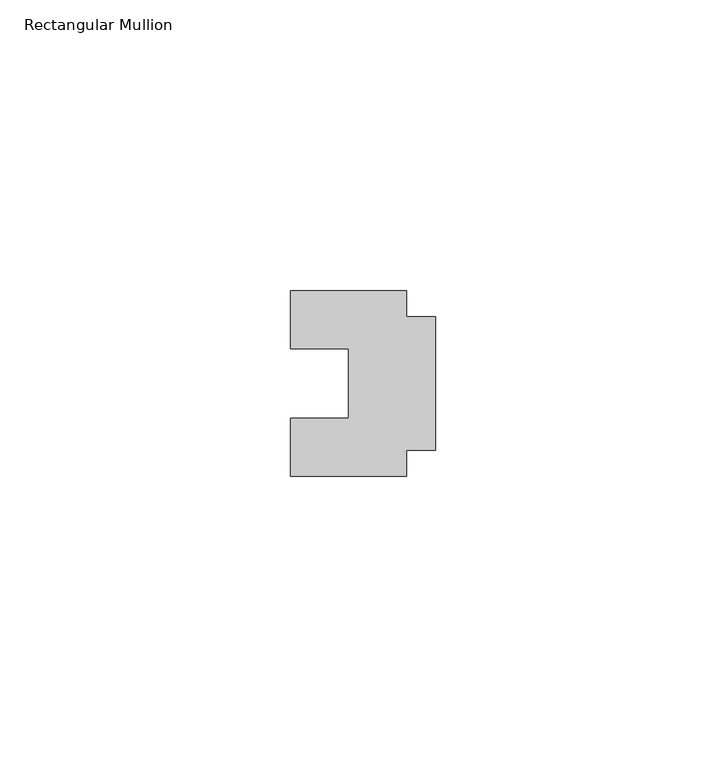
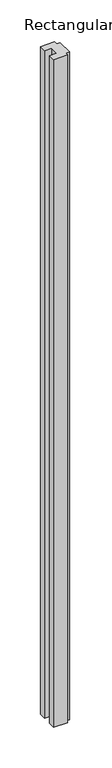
"""IFC4 building model written with IfcOpenShell, lengths in millimetres: member geometry, Rectangular Mullion : Klein_Nature_Profile-Bottom-Panel."""

from ifc_helpers import new_model, si_unit, frame, origin, place, context, project, spatial, polyline, outline, extrude, source, transform, mapped, element, save


def rectangular_mullion_76ee8039(model_context):
    return source(origin(), model_context, "Body", "SweptSolid", [
        extrude(outline(polyline([(-25.0, -4.3), (-5.0, -4.3), (-5.0, -8.8), (0.0, -8.8), (0.0, -31.8), (-5.0, -31.8), (-5.0, -36.3), (-25.0, -36.3), (-25.0, -26.3), (-15.0, -26.3), (-15.0, -14.3), (-25.0, -14.3), (-25.0, -4.3)])), frame((0.0, 0.0, -999.9999998), z_axis=(0.0, 0.0, 1.0), x_axis=(1.0, 0.0, 0.0)), (0.0, 0.0, 1.0), 999.9999998),
    ])


if __name__ == "__main__":
    model = new_model("IFC4")
    model_context = context("Model", 3, world=origin())
    ifc_project = project(units=[si_unit("LENGTHUNIT", "METRE", prefix="MILLI")], contexts=[model_context])
    site = spatial("IfcSite", under=ifc_project)
    building = spatial("IfcBuilding", under=site)
    placement = place(None, origin())
    rectangular_mullion_shape = rectangular_mullion_76ee8039(model_context)
    element("IfcMember", 1, ObjectType="Rectangular Mullion : Klein_Nature_Profile-Bottom-Panel", at=placement, inside=building, context=model_context, shape_type="MappedRepresentation", body=[
        mapped(rectangular_mullion_shape, transform((0.0, 0.0, 0.0), x_axis=(1.0, 0.0, 0.0), y_axis=(0.0, 1.0, 0.0), z_axis=(0.0, 0.0, 1.0))),
    ])
    save(model, "model.ifc")
